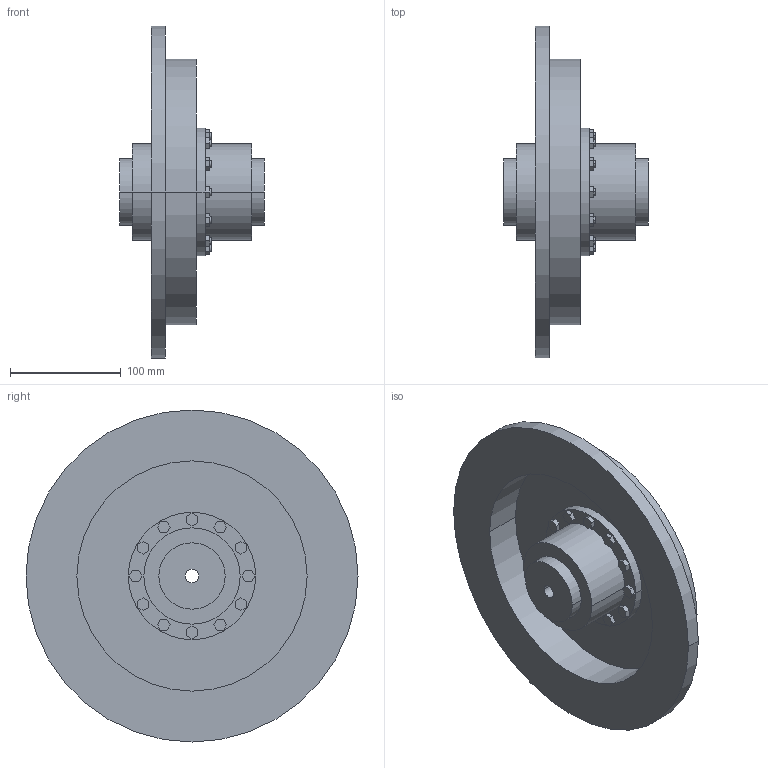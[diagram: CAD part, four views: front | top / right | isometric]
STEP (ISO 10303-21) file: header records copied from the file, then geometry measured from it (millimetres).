
FILE_DESCRIPTION((''),'2;1');
FILE_NAME('A19125700-0_ASM','2018-11-13T',('AB_Roschiwal'),('RENK AG'),'PRO/ENGINEER BY PARAMETRIC TECHNOLOGY CORPORATION, 2015440','PRO/ENGINEER BY PARAMETRIC TECHNOLOGY CORPORATION, 2015440','');
FILE_SCHEMA(('CONFIG_CONTROL_DESIGN'));
Length unit declared in the file: millimetre
Products named in the file (4): LBKT38_GEHAEUSE; LBKT38_NABE; LBKT38_BREMSSCHEIBE; A19125700-0_ASM
Assembly tree (4 placements, depth 2):
  A19125700-0_ASM
    LBKT38_GEHAEUSE
    LBKT38_NABE  x2
    LBKT38_BREMSSCHEIBE
Bounding box: 131 x 300 x 300 mm (x, y, z)
Volume: 1662322.5 mm3; surface area: 322668.1 mm2
Topology: 4 solids, 4 shells, 294 faces, 708 edges, 472 vertices
Faces by surface type: plane 202, cylinder 92
Entity records: 8412 total; most frequent: DIRECTION 1432, CARTESIAN_POINT 1430, ORIENTED_EDGE 1368, EDGE_CURVE 684, VECTOR 516, LINE 516, AXIS2_PLACEMENT_3D 458, VERTEX_POINT 456
